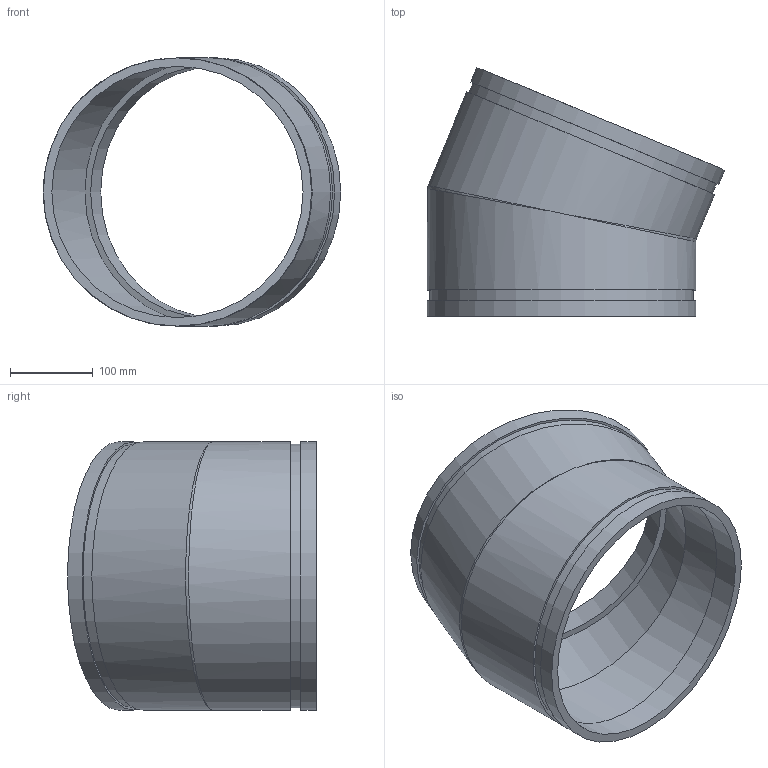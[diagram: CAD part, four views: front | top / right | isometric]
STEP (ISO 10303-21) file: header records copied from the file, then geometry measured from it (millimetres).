
FILE_DESCRIPTION(/* description */ ('VIC ELBOW 22 1/2 DEG No 12 (OGS)','CAx-IF Rec.Pracs.---Representation and Presentation of Product Manufacturing Information (PMI)---4.0---2014-10-13'),/* implementation_level */ '2;1');
FILE_NAME(/* name */ 'C:\Users\Vjadhav\Desktop\CAD for Inventor\1\12\STEP\Victaulic_IPS_Elbow 22.5 Deg_No 12 (OGS)\Victaulic_IPS_Elbow 22.5 Deg_No 12 (OGS)_12 (300).stp',/* time_stamp */ '2021-12-22T09:20:25+06:00',/* author */ ('CONSTRUCTION PIPING SERVICES'),/* organization */ ('Victaulic'),/* preprocessor_version */ 'ST-DEVELOPER v17.2',/* originating_system */ 'Autodesk Inventor 2019',/* authorisation */ '');
FILE_SCHEMA (('AP242_MANAGED_MODEL_BASED_3D_ENGINEERING_MIM_LF { 1 0 10303 442 1 1 4 }'));
Length unit declared in the file: inch
Products named in the file (1): 012-12.0
Bounding box: 358.96 x 300.43 x 323.85 mm (x, y, z)
Volume: 1091075.3 mm3; surface area: 542877.4 mm2
Topology: 3 solids, 3 shells, 20 faces, 45 edges, 29 vertices
Faces by surface type: cylinder 10, plane 8, bspline 2
Full cylindrical faces by diameter (mm): 303.225 x2, 318.287 x4, 323.85 x4
Entity records: 846 total; most frequent: CARTESIAN_POINT 242, DIRECTION 136, ORIENTED_EDGE 82, AXIS2_PLACEMENT_3D 63, EDGE_CURVE 41, VERTEX_POINT 29, EDGE_LOOP 28, STYLED_ITEM 24
